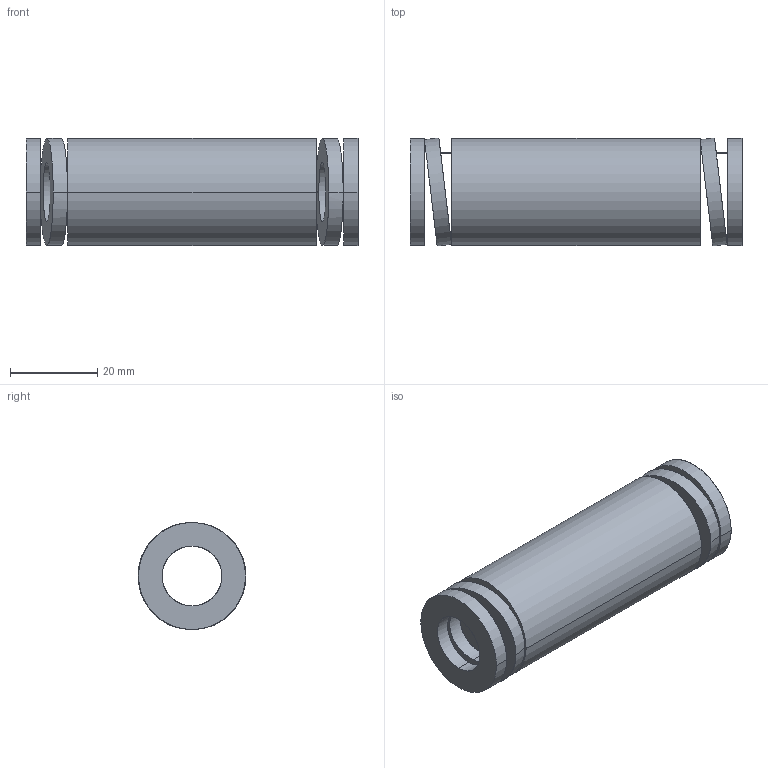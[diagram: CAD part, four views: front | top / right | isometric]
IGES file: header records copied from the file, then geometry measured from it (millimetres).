
Start section: START RECORD GO HERE.
Global section: file name: 392-B25-076.igs; native system: DASSAULT SYSTEMES CATIA V5 R20 - www.3ds.com; preprocessor: CATIA Version 5 Release 20 ; author: Utente; organization: NB04-ASUS; date: 20210813.094805; units: millimetre
Bounding box: 76 x 24.72 x 24.5 mm (x, y, z)
Surface area: 11640 mm2 (no closed solid volume)
Topology: 0 solids, 0 shells, 38 faces, 184 edges, 184 vertices
Faces by surface type: revolution 28, plane 10
